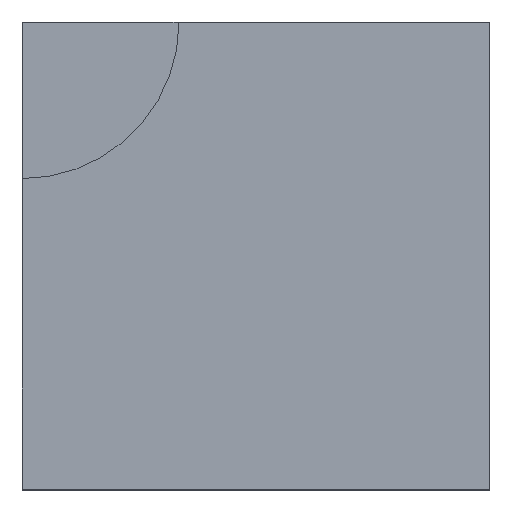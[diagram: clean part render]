
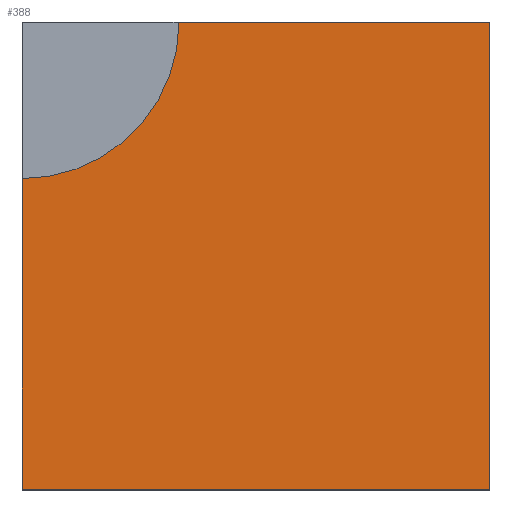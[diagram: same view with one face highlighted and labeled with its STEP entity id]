
A CAD part, top view. The second image highlights one B-rep face of the part: STEP entity #388.
In plain terms, the highlighted planar face has unit normal (0, 0, 1).
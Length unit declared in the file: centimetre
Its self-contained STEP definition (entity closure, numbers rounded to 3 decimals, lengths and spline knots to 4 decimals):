
#18 = DIRECTION ( 'NONE',  ( 1., 0., 0. ) ) ;
#19 = VERTEX_POINT ( 'NONE', #66 ) ;
#22 = DIRECTION ( 'NONE',  ( 0., 0., 1. ) ) ;
#46 = CARTESIAN_POINT ( 'NONE',  ( 1000., 1000., 1000. ) ) ;
#47 = FACE_OUTER_BOUND ( 'NONE', #173, .T. ) ;
#50 = VERTEX_POINT ( 'NONE', #415 ) ;
#57 = EDGE_CURVE ( 'NONE', #19, #220, #112, .T. ) ;
#60 = ORIENTED_EDGE ( 'NONE', *, *, #358, .F. ) ;
#66 = CARTESIAN_POINT ( 'NONE',  ( 0., 0., 1000. ) ) ;
#69 = LINE ( 'NONE', #343, #190 ) ;
#79 = LINE ( 'NONE', #46, #99 ) ;
#99 = VECTOR ( 'NONE', #213, 100. ) ;
#109 = DIRECTION ( 'NONE',  ( -1., 0., 0. ) ) ;
#112 = LINE ( 'NONE', #238, #252 ) ;
#139 = EDGE_CURVE ( 'NONE', #220, #336, #79, .T. ) ;
#173 = EDGE_LOOP ( 'NONE', ( #60, #267, #371, #300, #369 ) ) ;
#174 = CARTESIAN_POINT ( 'NONE',  ( 0., 1000., 1000. ) ) ;
#190 = VECTOR ( 'NONE', #109, 100. ) ;
#196 = VERTEX_POINT ( 'NONE', #380 ) ;
#213 = DIRECTION ( 'NONE',  ( 0., 1., 0. ) ) ;
#220 = VERTEX_POINT ( 'NONE', #407 ) ;
#238 = CARTESIAN_POINT ( 'NONE',  ( 0., 0., 1000. ) ) ;
#246 = EDGE_CURVE ( 'NONE', #196, #19, #378, .T. ) ;
#249 = DIRECTION ( 'NONE',  ( 0., 0., 1. ) ) ;
#252 = VECTOR ( 'NONE', #377, 100. ) ;
#254 = AXIS2_PLACEMENT_3D ( 'NONE', #437, #22, #360 ) ;
#261 = EDGE_CURVE ( 'NONE', #336, #50, #69, .T. ) ;
#267 = ORIENTED_EDGE ( 'NONE', *, *, #246, .T. ) ;
#270 = CARTESIAN_POINT ( 'NONE',  ( 1000., 1000., 1000. ) ) ;
#280 = VECTOR ( 'NONE', #416, 100. ) ;
#300 = ORIENTED_EDGE ( 'NONE', *, *, #139, .T. ) ;
#336 = VERTEX_POINT ( 'NONE', #270 ) ;
#343 = CARTESIAN_POINT ( 'NONE',  ( 0., 1000., 1000. ) ) ;
#351 = PLANE ( 'NONE',  #410 ) ;
#358 = EDGE_CURVE ( 'NONE', #196, #50, #403, .T. ) ;
#360 = DIRECTION ( 'NONE',  ( 1., 0., 0. ) ) ;
#369 = ORIENTED_EDGE ( 'NONE', *, *, #261, .T. ) ;
#371 = ORIENTED_EDGE ( 'NONE', *, *, #57, .T. ) ;
#377 = DIRECTION ( 'NONE',  ( 1., 0., 0. ) ) ;
#378 = LINE ( 'NONE', #174, #280 ) ;
#380 = CARTESIAN_POINT ( 'NONE',  ( 0., 664.7698, 1000. ) ) ;
#388 = ADVANCED_FACE ( 'NONE', ( #47 ), #351, .T. ) ;
#391 = CARTESIAN_POINT ( 'NONE',  ( 0., 0., 1000. ) ) ;
#403 = CIRCLE ( 'NONE', #254, 335.2302 ) ;
#407 = CARTESIAN_POINT ( 'NONE',  ( 1000., 0., 1000. ) ) ;
#410 = AXIS2_PLACEMENT_3D ( 'NONE', #391, #249, #18 ) ;
#415 = CARTESIAN_POINT ( 'NONE',  ( 335.2302, 1000., 1000. ) ) ;
#416 = DIRECTION ( 'NONE',  ( 0., -1., 0. ) ) ;
#437 = CARTESIAN_POINT ( 'NONE',  ( 0., 1000., 1000. ) ) ;
